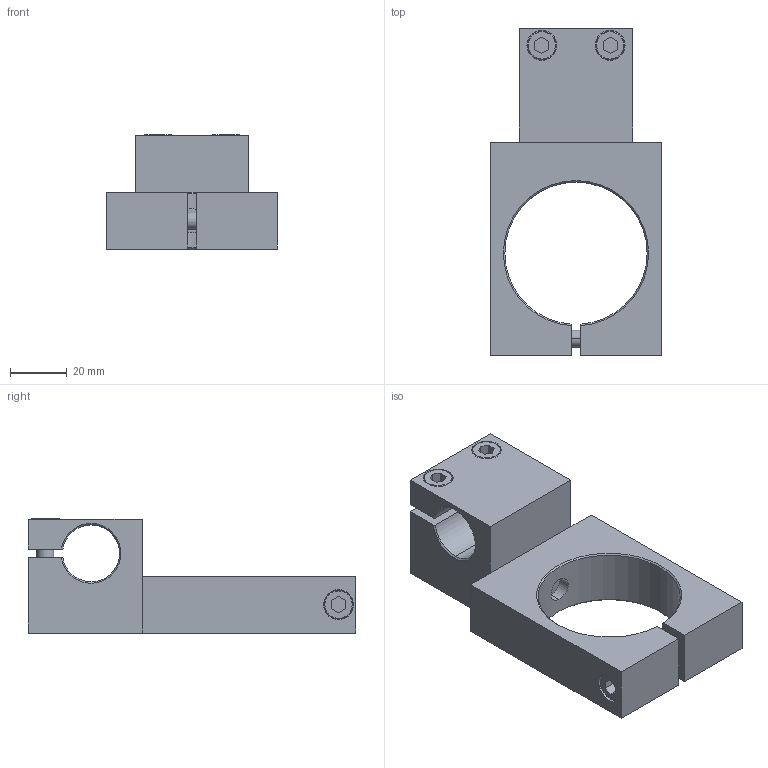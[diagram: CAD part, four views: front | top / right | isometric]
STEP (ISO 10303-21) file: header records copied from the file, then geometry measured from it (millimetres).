
FILE_DESCRIPTION (( 'STEP AP203' ), '1' );
FILE_NAME ('9SM5001N00 - SUPPORTO MULTIDIREZIONABILE Ø50.STEP', '2021-06-18T09:38:20', ( '' ), ( '' ), 'SwSTEP 2.0', 'SolidWorks 2019', '' );
FILE_SCHEMA (( 'CONFIG_CONTROL_DESIGN' ));
Length unit declared in the file: millimetre
Products named in the file (8): Rondella Schnorr_M10; 26528-10 - Base supporto multidirezionabile Ø50 - Anodizzato nero lucido_Default<A macchina>; Vite TCEI UNI 5931 A2_M06x 40; 26527-10 - Supporto multidirezionabile Ø50 - Anodizzato nero lucido_Default<A macchina>; Vite TCEI UNI 5931 A2_M10x 40; 9SM5001N00 - SUPPORTO MULTIDIREZIONABILE Ø50; Rondella Schnorr_M6; Vite TCEI UNI 5931 A2_M06x 20
Assembly tree (10 placements, depth 2):
  9SM5001N00 - SUPPORTO MULTIDIREZIONABILE Ø50
    26527-10 - Supporto multidirezionabile Ø50 - Anodizzato nero lucido_Default<A macchina>
    26528-10 - Base supporto multidirezionabile Ø50 - Anodizzato nero lucido_Default<A macchina>
    Rondella Schnorr_M6  x3
    Rondella Schnorr_M10
    Vite TCEI UNI 5931 A2_M06x 40
    Vite TCEI UNI 5931 A2_M06x 20  x2
    Vite TCEI UNI 5931 A2_M10x 40
Bounding box: 60 x 115 x 40.1 mm (x, y, z)
Volume: 98257.9 mm3; surface area: 35473.3 mm2
Topology: 10 solids, 10 shells, 160 faces, 360 edges, 232 vertices
Faces by surface type: plane 70, cylinder 62, cone 20, torus 8
Entity records: 4746 total; most frequent: CARTESIAN_POINT 723, DIRECTION 702, ORIENTED_EDGE 596, EDGE_CURVE 298, AXIS2_PLACEMENT_3D 271, VERTEX_POINT 192, LINE 160, VECTOR 160
